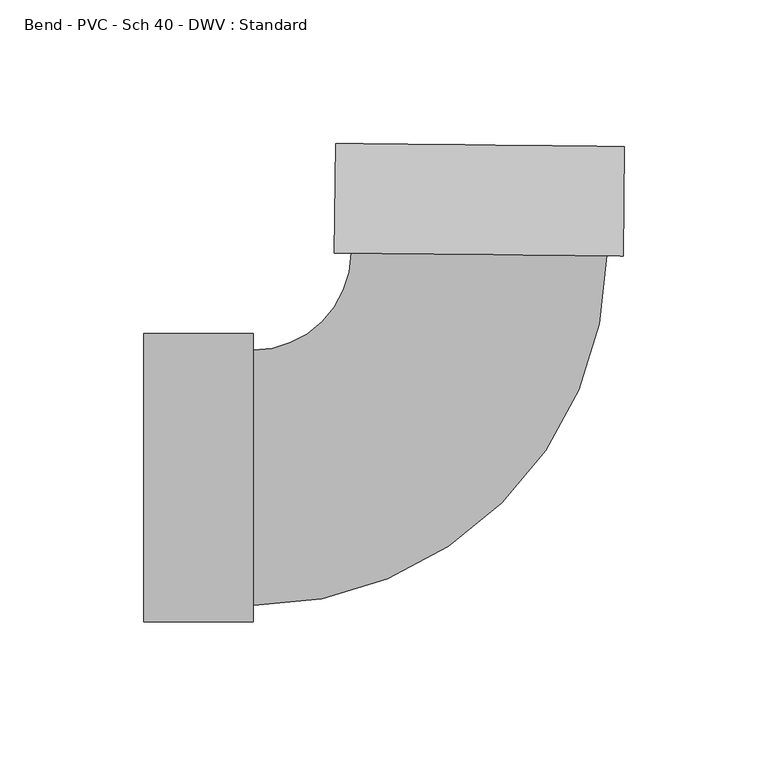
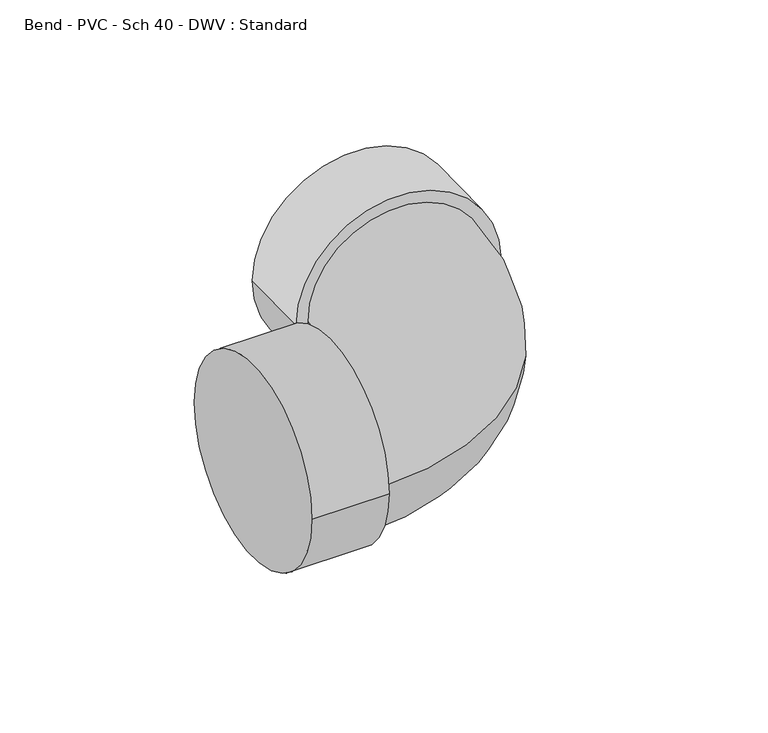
"""IFC4 building model written with IfcOpenShell, lengths in millimetres: pipe fitting geometry, Bend - PVC - Sch 40 - DWV : Standard."""

from ifc_helpers import new_model, si_unit, point, frame, origin, place, context, project, spatial, circle_curve, ellipse_curve, trimmed, source, transform, mapped, element, save
from ifc_brep_helpers import plane_surface, cylinder_surface, revolved_surface, advanced_brep


def bend_pvc_sch_40_dwv_standard_e6a60135(model_context):
    return source(origin(), model_context, "Body", "AdvancedBrep", [
        advanced_brep(
        [(-115.9002, -50.2666, 0.0), (-115.9002, 50.2666, 0.0), (-77.8002, -50.2666, 0.0), (-77.8002, 50.2666, 0.0), (-77.8002, -44.45, 0.0), (-77.8002, 44.45, 0.0), (-43.6372138, 78.2589751, 0.0), (45.2579634, 77.3329837, 0.0), (51.0742479, 77.2723974, 0.0), (-49.4534983, 78.3195614, 0.0), (51.4711013, 115.3703305, 0.0), (-49.0566448, 116.4174945, 0.0)],
        [
            (0, 1, circle_curve(frame((-115.9002, 0.0, 0.0), z_axis=(-1.0, 0.0, 0.0), x_axis=(0.0, 1.0, 0.0)), 50.2666)),
            (1, 0, circle_curve(frame((-115.9002, 0.0, 0.0), z_axis=(-1.0, 0.0, 0.0), x_axis=(0.0, 1.0, 0.0)), 50.2666)),
            (2, 3, circle_curve(frame((-77.8002, 0.0, 0.0), z_axis=(1.0, 0.0, 0.0), x_axis=(0.0, 1.0, 0.0)), 50.2666)),
            (3, 2, circle_curve(frame((-77.8002, 0.0, 0.0), z_axis=(1.0, 0.0, 0.0), x_axis=(0.0, 1.0, 0.0)), 50.2666)),
            (4, 5, circle_curve(frame((-77.8002, 0.0, 0.0), z_axis=(-1.0, 0.0, 0.0), x_axis=(0.0, 1.0, 0.0)), 44.45)),
            (5, 4, circle_curve(frame((-77.8002, 0.0, 0.0), z_axis=(-1.0, 0.0, 0.0), x_axis=(0.0, 1.0, 0.0)), 44.45)),
            (0, 2),
            (3, 1),
            (6, 5, circle_curve(frame((-77.8002, 78.6148396, 0.0), z_axis=(0.0, 0.0, -1.0), x_axis=(0.0, -1.0, 0.0)), 34.1648396)),
            (4, 7, circle_curve(frame((-77.8002, 78.6148396, 0.0), z_axis=(0.0, 0.0, 1.0), x_axis=(0.0, -1.0, 0.0)), 123.0648396)),
            (7, 6, circle_curve(frame((0.8103748, 77.7959794, 0.0), z_axis=(-0.010416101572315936, -0.9999457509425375, 0.0), x_axis=(-0.9999457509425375, 0.010416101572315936, 0.0)), 44.45)),
            (6, 7, circle_curve(frame((0.8103748, 77.7959794, 0.0), z_axis=(-0.010416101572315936, -0.9999457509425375, 0.0), x_axis=(-0.9999457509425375, 0.010416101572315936, 0.0)), 44.45)),
            (8, 9, circle_curve(frame((0.8103748, 77.7959794, 0.0), z_axis=(-0.010416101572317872, -0.9999457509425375, 0.0), x_axis=(-0.9999457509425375, 0.010416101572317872, 0.0)), 50.2666)),
            (9, 8, circle_curve(frame((0.8103748, 77.7959794, 0.0), z_axis=(-0.010416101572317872, -0.9999457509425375, 0.0), x_axis=(-0.9999457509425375, 0.010416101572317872, 0.0)), 50.2666)),
            (10, 11, circle_curve(frame((1.2072283, 115.8939125, 0.0), z_axis=(0.010416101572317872, 0.9999457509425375, 0.0), x_axis=(-0.9999457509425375, 0.010416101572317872, 0.0)), 50.2666)),
            (11, 10, circle_curve(frame((1.2072283, 115.8939125, 0.0), z_axis=(0.010416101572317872, 0.9999457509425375, 0.0), x_axis=(-0.9999457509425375, 0.010416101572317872, 0.0)), 50.2666)),
            (8, 10),
            (11, 9),
        ],
        [
            plane_surface(frame((-115.9002, 0.0, 0.0), z_axis=(-1.0, 0.0, 0.0), x_axis=(0.0, 0.0, 1.0))),
            plane_surface(frame((-77.8002, 0.0, 0.0), z_axis=(1.0, 0.0, 0.0), x_axis=(0.0, 0.0, 1.0))),
            cylinder_surface(frame((-115.9002, 0.0, 0.0), z_axis=(-1.0, 0.0, 0.0), x_axis=(0.0, 1.0, 0.0)), 50.2666),
            revolved_surface(trimmed(ellipse_curve(frame((-77.8002, 0.0, 0.0), z_axis=(-1.0, 0.0, 0.0), x_axis=(0.0, 1.0, 0.0)), 44.45, 44.45), [point((-77.8002, -44.45, 0.0))], [point((-77.8002, 44.45, 0.0))], True, "CARTESIAN"), (-77.8002, 78.6148396, 0.0), (0.0, 0.0, 1.0)),
            revolved_surface(trimmed(ellipse_curve(frame((-77.8002, 0.0, 0.0), z_axis=(-1.0, 0.0, 0.0), x_axis=(0.0, 1.0, 0.0)), 44.45, 44.45), [point((-77.8002, 44.45, 0.0))], [point((-77.8002, -44.45, 0.0))], True, "CARTESIAN"), (-77.8002, 78.6148396, 0.0), (0.0, 0.0, 1.0)),
            plane_surface(frame((0.8103748, 77.7959794, 0.0), z_axis=(-0.010416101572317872, -0.9999457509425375, 0.0), x_axis=(0.0, 0.0, 1.0))),
            plane_surface(frame((1.2072283, 115.8939125, 0.0), z_axis=(0.010416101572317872, 0.9999457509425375, 0.0), x_axis=(0.0, 0.0, 1.0))),
            cylinder_surface(frame((0.8103748, 77.7959794, 0.0), z_axis=(-0.010416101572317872, -0.9999457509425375, 0.0), x_axis=(-0.9999457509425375, 0.010416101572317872, 0.0)), 50.2666),
        ],
        [
            (0, [[1, 2]]),
            (1, [[3, 4], [5, 6]]),
            (2, [[-1, 7, -4, 8]]),
            (2, [[-2, -8, -3, -7]]),
            (3, [[9, -5, 10, 11]]),
            (4, [[-9, 12, -10, -6]]),
            (5, [[13, 14], [-11, -12]]),
            (6, [[15, 16]]),
            (7, [[-13, 17, -16, 18]]),
            (7, [[-14, -18, -15, -17]]),
        ],
    ),
    ])


if __name__ == "__main__":
    model = new_model("IFC4")
    model_context = context("Model", 3, world=origin())
    ifc_project = project(units=[si_unit("LENGTHUNIT", "METRE", prefix="MILLI")], contexts=[model_context])
    site = spatial("IfcSite", under=ifc_project)
    building = spatial("IfcBuilding", under=site)
    placement = place(None, origin())
    bend_pvc_sch_40_dwv_standard_shape = bend_pvc_sch_40_dwv_standard_e6a60135(model_context)
    element("IfcPipeFitting", 1, ObjectType="Bend - PVC - Sch 40 - DWV : Standard", at=placement, inside=building, context=model_context, shape_type="MappedRepresentation", body=[
        mapped(bend_pvc_sch_40_dwv_standard_shape, transform((0.0, 0.0, 0.0), x_axis=(1.0, 0.0, 0.0), y_axis=(0.0, 1.0, 0.0), z_axis=(0.0, 0.0, 1.0))),
    ])
    save(model, "model.ifc")
